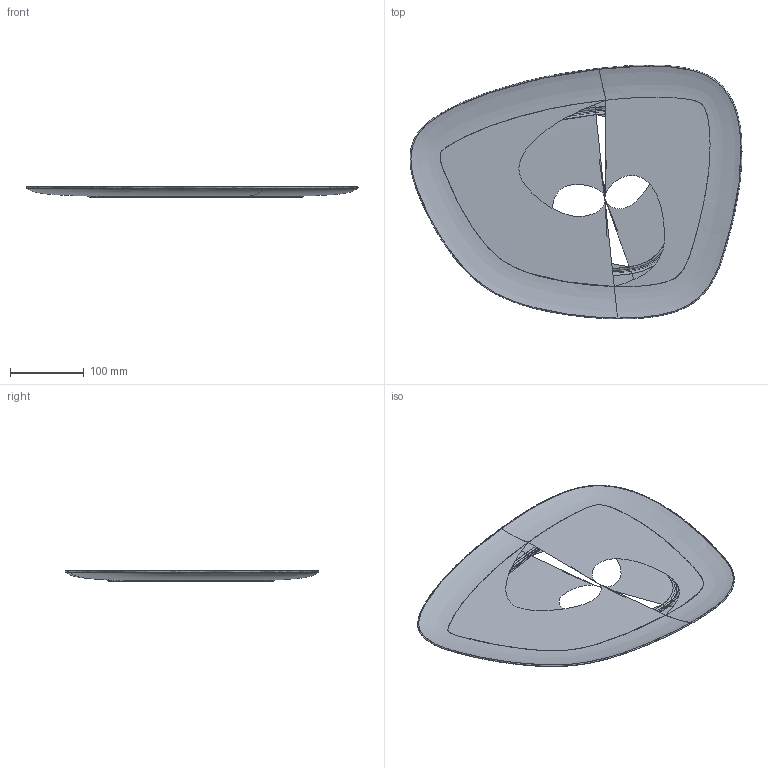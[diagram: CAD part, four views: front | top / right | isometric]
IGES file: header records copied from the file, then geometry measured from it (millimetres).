
Start section: START RECORD GO HERE.
Global section: file name: D:\3ddFactory\3D_Kartell\da controllare_3dd\Namaste\C\Namast; native system: Rhinoceros ( Mar 10 2014 ); preprocessor: Trout Lake IGES 012 Mar 10 2014; date: 180210.100029; units: millimetre
Bounding box: 450.96 x 344.86 x 14.47 mm (x, y, z)
Surface area: 218358.4 mm2 (no closed solid volume)
Topology: 0 solids, 0 shells, 21 faces, 1542 edges, 1542 vertices
Faces by surface type: bspline 21
